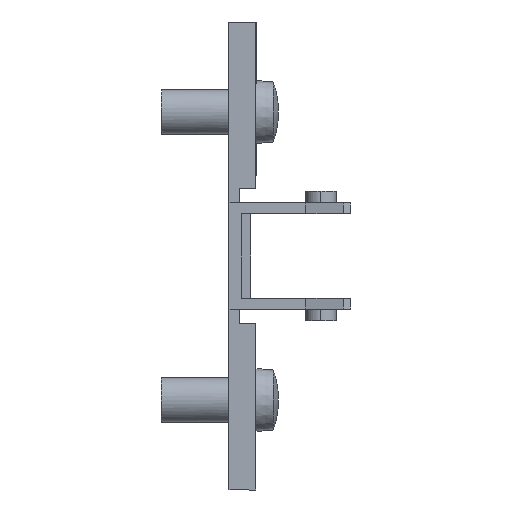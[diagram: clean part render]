
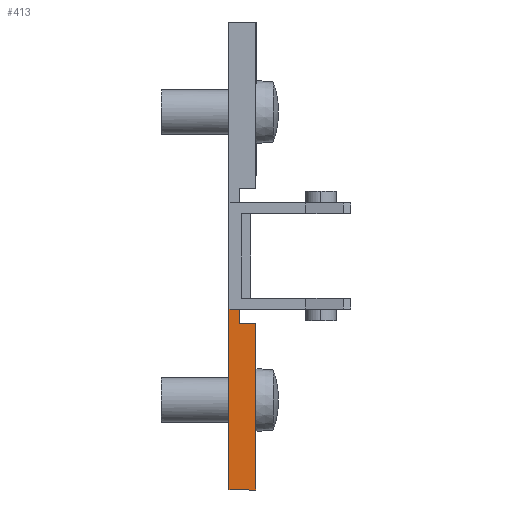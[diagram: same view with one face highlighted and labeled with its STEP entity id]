
A CAD part, front view. The second image highlights one B-rep face of the part: STEP entity #413.
In plain terms, the highlighted planar face has unit normal (0, -1, 0).
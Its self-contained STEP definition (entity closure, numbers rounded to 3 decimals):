
#5 = VERTEX_POINT ( 'NONE', #2634 ) ;
#88 = CARTESIAN_POINT ( 'NONE',  ( 3., -9., -26. ) ) ;
#127 = VERTEX_POINT ( 'NONE', #88 ) ;
#149 = VERTEX_POINT ( 'NONE', #1155 ) ;
#179 = VERTEX_POINT ( 'NONE', #732 ) ;
#180 = VERTEX_POINT ( 'NONE', #699 ) ;
#241 = DIRECTION ( 'NONE',  ( 0., 0., 1. ) ) ;
#245 = CARTESIAN_POINT ( 'NONE',  ( 1.2, -9., -5. ) ) ;
#250 = CARTESIAN_POINT ( 'NONE',  ( 3., -9., -26. ) ) ;
#251 = DIRECTION ( 'NONE',  ( 1., 0., 0. ) ) ;
#263 = DIRECTION ( 'NONE',  ( -1., 0., 0. ) ) ;
#300 = CARTESIAN_POINT ( 'NONE',  ( 0., -9., -26. ) ) ;
#332 = CARTESIAN_POINT ( 'NONE',  ( 1.2, -9., -7.5 ) ) ;
#413 = ADVANCED_FACE ( 'NONE', ( #3255 ), #797, .F. ) ;
#475 = VECTOR ( 'NONE', #655, 1000. ) ;
#476 = LINE ( 'NONE', #648, #475 ) ;
#493 = LINE ( 'NONE', #1597, #587 ) ;
#510 = VECTOR ( 'NONE', #902, 1000. ) ;
#511 = LINE ( 'NONE', #893, #510 ) ;
#587 = VECTOR ( 'NONE', #1206, 1000. ) ;
#648 = CARTESIAN_POINT ( 'NONE',  ( 1.2, -9., -5.9 ) ) ;
#655 = DIRECTION ( 'NONE',  ( 1., 0., 0. ) ) ;
#699 = CARTESIAN_POINT ( 'NONE',  ( 1.2, -9., -7.5 ) ) ;
#732 = CARTESIAN_POINT ( 'NONE',  ( 1.2, -9., -5.9 ) ) ;
#794 = CARTESIAN_POINT ( 'NONE',  ( 1.2, -9., -5. ) ) ;
#797 = PLANE ( 'NONE',  #2525 ) ;
#893 = CARTESIAN_POINT ( 'NONE',  ( 3., -9., -7.5 ) ) ;
#902 = DIRECTION ( 'NONE',  ( 0., 0., 1. ) ) ;
#1004 = DIRECTION ( 'NONE',  ( 0., 1., 0. ) ) ;
#1007 = DIRECTION ( 'NONE',  ( 0., 0., 1. ) ) ;
#1155 = CARTESIAN_POINT ( 'NONE',  ( 0., -9., -5.9 ) ) ;
#1206 = DIRECTION ( 'NONE',  ( 0., 0., -1. ) ) ;
#1597 = CARTESIAN_POINT ( 'NONE',  ( 0., -9., -26. ) ) ;
#1779 = VECTOR ( 'NONE', #251, 1000. ) ;
#1780 = LINE ( 'NONE', #250, #1779 ) ;
#1806 = VECTOR ( 'NONE', #263, 1000. ) ;
#1809 = LINE ( 'NONE', #332, #1806 ) ;
#1816 = VECTOR ( 'NONE', #241, 1000. ) ;
#1817 = LINE ( 'NONE', #245, #1816 ) ;
#2376 = EDGE_CURVE ( 'NONE', #149, #2632, #493, .T. ) ;
#2434 = EDGE_CURVE ( 'NONE', #127, #5, #511, .T. ) ;
#2469 = EDGE_CURVE ( 'NONE', #149, #179, #476, .T. ) ;
#2525 = AXIS2_PLACEMENT_3D ( 'NONE', #794, #1004, #1007 ) ;
#2570 = EDGE_CURVE ( 'NONE', #180, #179, #1817, .T. ) ;
#2574 = EDGE_CURVE ( 'NONE', #5, #180, #1809, .T. ) ;
#2597 = EDGE_CURVE ( 'NONE', #2632, #127, #1780, .T. ) ;
#2632 = VERTEX_POINT ( 'NONE', #300 ) ;
#2634 = CARTESIAN_POINT ( 'NONE',  ( 3., -9., -7.5 ) ) ;
#2976 = ORIENTED_EDGE ( 'NONE', *, *, #2469, .F. ) ;
#2977 = ORIENTED_EDGE ( 'NONE', *, *, #2376, .T. ) ;
#2978 = ORIENTED_EDGE ( 'NONE', *, *, #2597, .T. ) ;
#2979 = ORIENTED_EDGE ( 'NONE', *, *, #2434, .T. ) ;
#2980 = ORIENTED_EDGE ( 'NONE', *, *, #2574, .T. ) ;
#2981 = ORIENTED_EDGE ( 'NONE', *, *, #2570, .T. ) ;
#3255 = FACE_OUTER_BOUND ( 'NONE', #3425, .T. ) ;
#3425 = EDGE_LOOP ( 'NONE', ( #2976, #2977, #2978, #2979, #2980, #2981 ) ) ;
